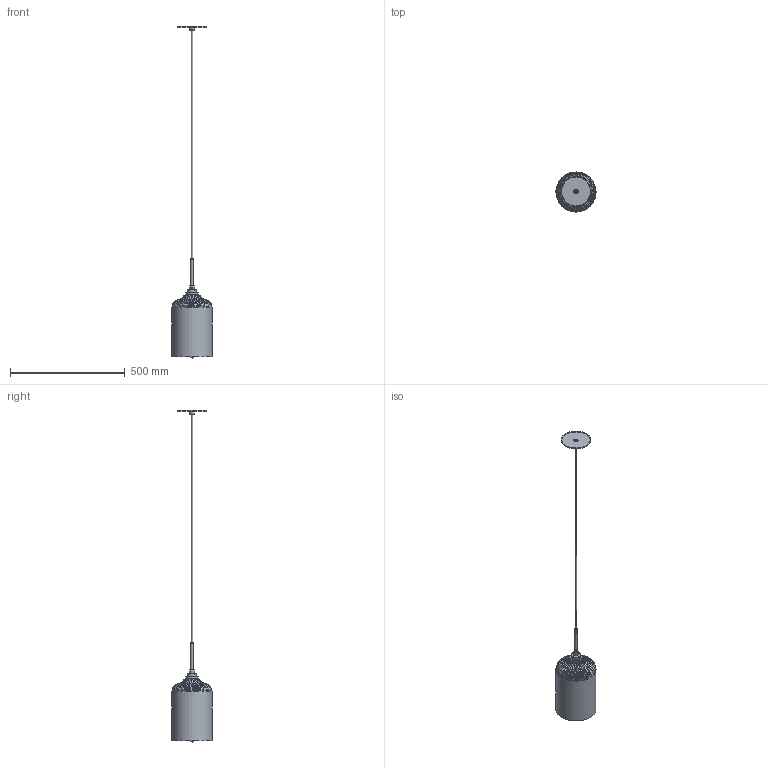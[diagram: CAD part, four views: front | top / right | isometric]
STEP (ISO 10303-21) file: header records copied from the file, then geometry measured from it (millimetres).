
FILE_DESCRIPTION(/* description */ (''),/* implementation_level */ '2;1');
FILE_NAME(/* name */ 'C:/Users/zach/Niche/Product Development - Documents/CAD Models/Pendants/Bella/Glass - Luxe Hardware/Niche - Bella Pendant.step',/* time_stamp */ '2022-09-27T15:38:46-04:00',/* author */ (''),/* organization */ (''),/* preprocessor_version */ 'ST-DEVELOPER v19',/* originating_system */ 'Autodesk Translation Framework v11.7.0.108',/* authorisation */ '');
FILE_SCHEMA (('AUTOMOTIVE_DESIGN { 1 0 10303 214 3 1 1 }'));
Length unit declared in the file: inch
Products named in the file (1): Bella
Bounding box: 175 x 175 x 1449.32 mm (x, y, z)
Volume: 717132.8 mm3; surface area: 421761.1 mm2
Topology: 11 solids, 11 shells, 229 faces, 590 edges, 387 vertices
Faces by surface type: cylinder 126, plane 48, cone 31, bspline 12, torus 11, sphere 1
Full cylindrical faces by diameter (mm): 4.529 x1, 5.08 x1, 6.096 x1, 6.35 x1, 6.5 x1, 7.62 x1, 7.744 x7, 8.036 x15, 8.852 x1, 8.884 x8, 9.035 x1, 9.146 x11, 10.16 x1, 12.7 x2, 19.05 x1, 19.2 x1, 25.4 x1, 26.022 x1, 34.97 x1, 35.052 x9, 37.85 x8, 39 x1, 39.35 x1, 41.035 x1, 41.2 x1, 41.884 x1, 44 x1, 46.088 x1, 55 x2, 125.476 x1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
Entity records: 15505 total; most frequent: CARTESIAN_POINT 10152, ORIENTED_EDGE 1178, DIRECTION 976, EDGE_CURVE 589, AXIS2_PLACEMENT_3D 388, VERTEX_POINT 387, EDGE_LOOP 258, FACE_OUTER_BOUND 229
